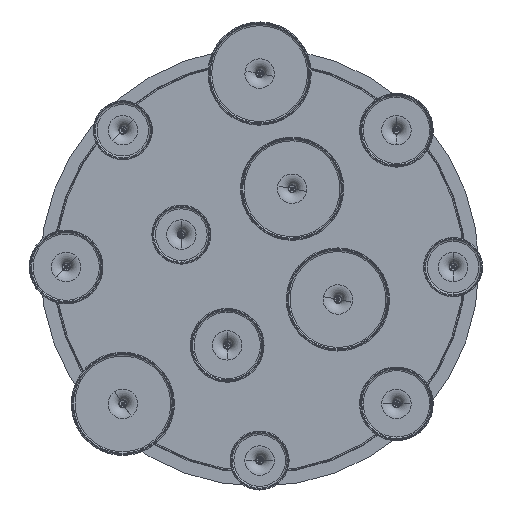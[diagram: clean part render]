
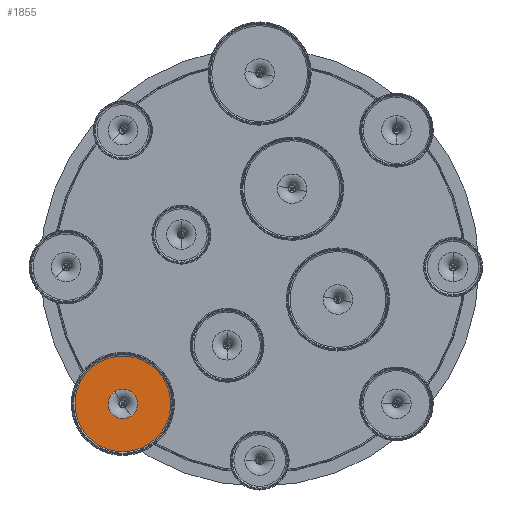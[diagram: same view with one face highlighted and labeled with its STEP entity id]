
A CAD part, front view. The second image highlights one B-rep face of the part: STEP entity #1855.
In plain terms, the highlighted planar face has unit normal (0, -1, 0).
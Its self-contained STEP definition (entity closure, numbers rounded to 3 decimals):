
#479 = CARTESIAN_POINT ( 'NONE',  ( 0., 62.762, 0. ) ) ;
#703 = FACE_OUTER_BOUND ( 'NONE', #17242, .T. ) ;
#1167 = CIRCLE ( 'NONE', #6762, 65. ) ;
#1281 = DIRECTION ( 'NONE',  ( 1., 0., 0. ) ) ;
#1657 = DIRECTION ( 'NONE',  ( 0., -1., 0. ) ) ;
#1770 = CARTESIAN_POINT ( 'NONE',  ( 0., 62.762, 0. ) ) ;
#1790 = AXIS2_PLACEMENT_3D ( 'NONE', #1770, #1657, #22850 ) ;
#1855 = ADVANCED_FACE ( 'NONE', ( #18388, #703 ), #20250, .F. ) ;
#1910 = VERTEX_POINT ( 'NONE', #20486 ) ;
#2666 = DIRECTION ( 'NONE',  ( 0., -1., 0. ) ) ;
#2783 = CARTESIAN_POINT ( 'NONE',  ( 0., 62.762, 0. ) ) ;
#3778 = DIRECTION ( 'NONE',  ( 0., -1., 0. ) ) ;
#3866 = ORIENTED_EDGE ( 'NONE', *, *, #16151, .T. ) ;
#4168 = CARTESIAN_POINT ( 'NONE',  ( 65., 62.762, 0. ) ) ;
#5120 = EDGE_LOOP ( 'NONE', ( #22810, #11707 ) ) ;
#5498 = ORIENTED_EDGE ( 'NONE', *, *, #20648, .T. ) ;
#5760 = CIRCLE ( 'NONE', #19499, 20. ) ;
#6681 = EDGE_CURVE ( 'NONE', #1910, #15293, #5760, .T. ) ;
#6762 = AXIS2_PLACEMENT_3D ( 'NONE', #7307, #3778, #17989 ) ;
#7174 = AXIS2_PLACEMENT_3D ( 'NONE', #479, #16184, #12926 ) ;
#7307 = CARTESIAN_POINT ( 'NONE',  ( 0., 62.762, 0. ) ) ;
#9436 = DIRECTION ( 'NONE',  ( 0., 1., 0. ) ) ;
#11030 = CARTESIAN_POINT ( 'NONE',  ( -20., 62.762, 0. ) ) ;
#11498 = EDGE_CURVE ( 'NONE', #15293, #1910, #15551, .T. ) ;
#11707 = ORIENTED_EDGE ( 'NONE', *, *, #11498, .F. ) ;
#12926 = DIRECTION ( 'NONE',  ( 1., 0., 0. ) ) ;
#14808 = VERTEX_POINT ( 'NONE', #4168 ) ;
#15293 = VERTEX_POINT ( 'NONE', #11030 ) ;
#15551 = CIRCLE ( 'NONE', #1790, 20. ) ;
#16151 = EDGE_CURVE ( 'NONE', #14808, #16246, #1167, .T. ) ;
#16184 = DIRECTION ( 'NONE',  ( 0., -1., 0. ) ) ;
#16246 = VERTEX_POINT ( 'NONE', #18217 ) ;
#16636 = CARTESIAN_POINT ( 'NONE',  ( -65., 62.762, 0. ) ) ;
#17187 = CIRCLE ( 'NONE', #7174, 65. ) ;
#17242 = EDGE_LOOP ( 'NONE', ( #3866, #5498 ) ) ;
#17989 = DIRECTION ( 'NONE',  ( 1., 0., 0. ) ) ;
#18217 = CARTESIAN_POINT ( 'NONE',  ( -65., 62.762, 0. ) ) ;
#18388 = FACE_BOUND ( 'NONE', #5120, .T. ) ;
#18892 = AXIS2_PLACEMENT_3D ( 'NONE', #16636, #9436, #21895 ) ;
#19499 = AXIS2_PLACEMENT_3D ( 'NONE', #2783, #2666, #1281 ) ;
#20250 = PLANE ( 'NONE',  #18892 ) ;
#20486 = CARTESIAN_POINT ( 'NONE',  ( 20., 62.762, 0. ) ) ;
#20648 = EDGE_CURVE ( 'NONE', #16246, #14808, #17187, .T. ) ;
#21895 = DIRECTION ( 'NONE',  ( -1., 0., 0. ) ) ;
#22810 = ORIENTED_EDGE ( 'NONE', *, *, #6681, .F. ) ;
#22850 = DIRECTION ( 'NONE',  ( 1., 0., 0. ) ) ;
